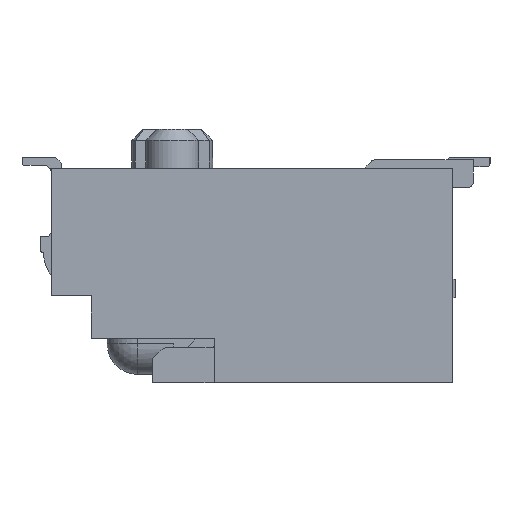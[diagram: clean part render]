
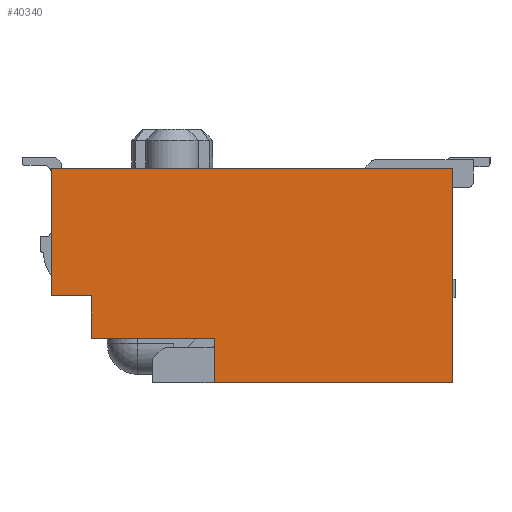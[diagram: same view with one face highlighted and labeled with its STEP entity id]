
A CAD part, left-side view. The second image highlights one B-rep face of the part: STEP entity #40340.
In plain terms, the highlighted planar face has unit normal (-1, 0, 0).
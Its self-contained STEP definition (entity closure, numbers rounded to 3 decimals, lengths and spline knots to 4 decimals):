
#585=DIRECTION('',(0.,1.,0.));
#586=VECTOR('',#585,7.2);
#587=CARTESIAN_POINT('',(-1.7,-7.2,2.75));
#588=LINE('',#587,#586);
#1377=DIRECTION('',(0.,1.,0.));
#1378=VECTOR('',#1377,2.2);
#1379=CARTESIAN_POINT('',(-1.7,-2.92,-0.3));
#1380=LINE('',#1379,#1378);
#1381=DIRECTION('',(0.,1.,0.));
#1382=VECTOR('',#1381,0.72);
#1383=CARTESIAN_POINT('',(-1.7,-0.72,0.46));
#1384=LINE('',#1383,#1382);
#1385=DIRECTION('',(0.,0.,-1.));
#1386=VECTOR('',#1385,3.85);
#1387=CARTESIAN_POINT('',(-1.7,-7.2,2.75));
#1388=LINE('',#1387,#1386);
#1389=DIRECTION('',(0.,1.,0.));
#1390=VECTOR('',#1389,4.28);
#1391=CARTESIAN_POINT('',(-1.7,-7.2,-1.1));
#1392=LINE('',#1391,#1390);
#1393=DIRECTION('',(0.,0.,-1.));
#1394=VECTOR('',#1393,0.8);
#1395=CARTESIAN_POINT('',(-1.7,-2.92,-0.3));
#1396=LINE('',#1395,#1394);
#7790=DIRECTION('',(0.,0.,-1.));
#7791=VECTOR('',#7790,2.29);
#7792=CARTESIAN_POINT('',(-1.7,0.,2.75));
#7793=LINE('',#7792,#7791);
#15413=DIRECTION('',(0.,0.,-1.));
#15414=VECTOR('',#15413,0.76);
#15415=CARTESIAN_POINT('',(-1.7,-0.72,0.46));
#15416=LINE('',#15415,#15414);
#29589=CARTESIAN_POINT('',(-1.7,0.,2.75));
#29590=VERTEX_POINT('',#29589);
#29591=CARTESIAN_POINT('',(-1.7,0.,0.46));
#29592=VERTEX_POINT('',#29591);
#30165=CARTESIAN_POINT('',(-1.7,-7.2,2.75));
#30166=VERTEX_POINT('',#30165);
#30770=CARTESIAN_POINT('',(-1.7,-7.2,-1.1));
#30771=VERTEX_POINT('',#30770);
#32600=CARTESIAN_POINT('',(-1.7,-0.72,0.46));
#32601=VERTEX_POINT('',#32600);
#35204=CARTESIAN_POINT('',(-1.7,-0.72,-0.3));
#35205=VERTEX_POINT('',#35204);
#35206=CARTESIAN_POINT('',(-1.7,-2.92,-0.3));
#35207=VERTEX_POINT('',#35206);
#35212=CARTESIAN_POINT('',(-1.7,-2.92,-1.1));
#35213=VERTEX_POINT('',#35212);
#40319=CARTESIAN_POINT('',(-1.7,0.,-1.1));
#40320=DIRECTION('',(-1.,0.,0.));
#40321=DIRECTION('',(0.,0.,1.));
#40322=AXIS2_PLACEMENT_3D('',#40319,#40320,#40321);
#40323=PLANE('',#40322);
#40325=ORIENTED_EDGE('',*,*,#40324,.F.);
#40327=ORIENTED_EDGE('',*,*,#40326,.T.);
#40329=ORIENTED_EDGE('',*,*,#40328,.F.);
#40331=ORIENTED_EDGE('',*,*,#40330,.T.);
#40333=ORIENTED_EDGE('',*,*,#40332,.F.);
#40334=ORIENTED_EDGE('',*,*,#39664,.F.);
#40335=ORIENTED_EDGE('',*,*,#39307,.T.);
#40337=ORIENTED_EDGE('',*,*,#40336,.T.);
#40338=EDGE_LOOP('',(#40325,#40327,#40329,#40331,#40333,#40334,#40335,#40337));
#40339=FACE_OUTER_BOUND('',#40338,.F.);
#40340=ADVANCED_FACE('',(#40339),#40323,.T.);
#39307=EDGE_CURVE('',#30166,#30771,#1388,.T.);
#39664=EDGE_CURVE('',#30166,#29590,#588,.T.);
#40324=EDGE_CURVE('',#35207,#35213,#1396,.T.);
#40326=EDGE_CURVE('',#35207,#35205,#1380,.T.);
#40328=EDGE_CURVE('',#32601,#35205,#15416,.T.);
#40330=EDGE_CURVE('',#32601,#29592,#1384,.T.);
#40332=EDGE_CURVE('',#29590,#29592,#7793,.T.);
#40336=EDGE_CURVE('',#30771,#35213,#1392,.T.);
